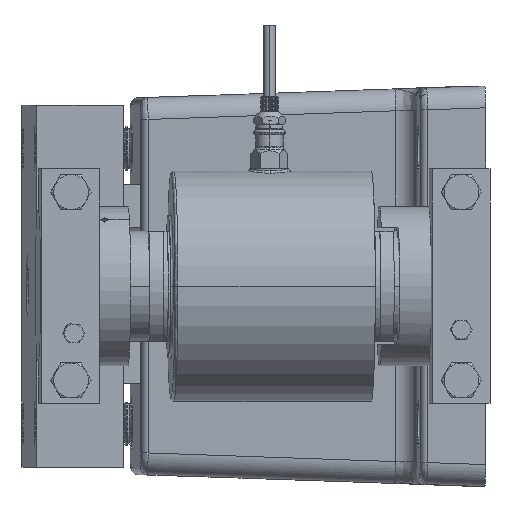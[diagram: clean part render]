
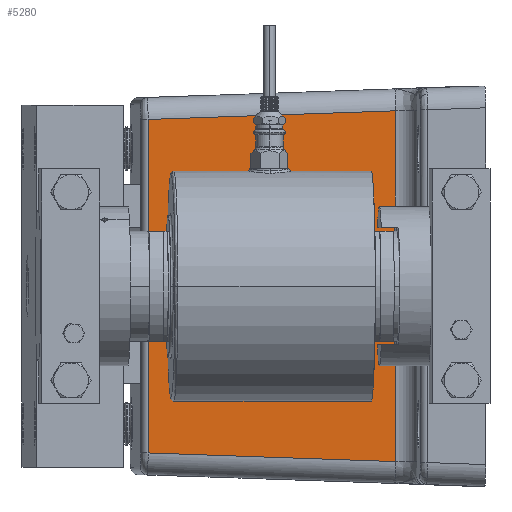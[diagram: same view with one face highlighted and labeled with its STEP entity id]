
A CAD part, left-side view. The second image highlights one B-rep face of the part: STEP entity #5280.
In plain terms, the highlighted planar face has unit normal (-1, 0, 0) as drawn and (-0.999, 0.035, 0) by its records, which use the part's own axes.
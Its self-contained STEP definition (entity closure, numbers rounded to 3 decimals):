
#1354 = LINE ( 'NONE', #33025, #33276 ) ;
#1783 = DIRECTION ( 'NONE',  ( 0., 0., 1. ) ) ;
#3102 = CARTESIAN_POINT ( 'NONE',  ( 73.871, 59.477, -251.139 ) ) ;
#5280 = ADVANCED_FACE ( 'NONE', ( #18246 ), #31079, .T. ) ;
#8246 = CARTESIAN_POINT ( 'NONE',  ( 79.831, 230.174, -14.822 ) ) ;
#9266 = CARTESIAN_POINT ( 'NONE',  ( 80.298, 243.535, -15.289 ) ) ;
#9676 = VERTEX_POINT ( 'NONE', #3102 ) ;
#12179 = DIRECTION ( 'NONE',  ( -0.999, 0.035, 0. ) ) ;
#12671 = EDGE_CURVE ( 'NONE', #18720, #13911, #40480, .T. ) ;
#12758 = ORIENTED_EDGE ( 'NONE', *, *, #39160, .T. ) ;
#13876 = CARTESIAN_POINT ( 'NONE',  ( 79.884, 231.691, -245.125 ) ) ;
#13911 = VERTEX_POINT ( 'NONE', #35965 ) ;
#15201 = VECTOR ( 'NONE', #23291, 1000. ) ;
#17140 = ORIENTED_EDGE ( 'NONE', *, *, #26113, .F. ) ;
#17597 = AXIS2_PLACEMENT_3D ( 'NONE', #40872, #12179, #24957 ) ;
#18246 = FACE_OUTER_BOUND ( 'NONE', #24901, .T. ) ;
#18250 = DIRECTION ( 'NONE',  ( 0., 0., -1. ) ) ;
#18720 = VERTEX_POINT ( 'NONE', #8246 ) ;
#21001 = CARTESIAN_POINT ( 'NONE',  ( 79.831, 230.174, -260. ) ) ;
#23291 = DIRECTION ( 'NONE',  ( 0.035, 0.999, 0.035 ) ) ;
#23614 = VECTOR ( 'NONE', #37363, 1000. ) ;
#24199 = VERTEX_POINT ( 'NONE', #35656 ) ;
#24901 = EDGE_LOOP ( 'NONE', ( #17140, #12758, #28791, #34379 ) ) ;
#24957 = DIRECTION ( 'NONE',  ( -0.035, -0.999, 0. ) ) ;
#26113 = EDGE_CURVE ( 'NONE', #9676, #13911, #29815, .T. ) ;
#28791 = ORIENTED_EDGE ( 'NONE', *, *, #35104, .F. ) ;
#29815 = LINE ( 'NONE', #13876, #15201 ) ;
#31079 = PLANE ( 'NONE',  #17597 ) ;
#33025 = CARTESIAN_POINT ( 'NONE',  ( 73.871, 59.477, -260. ) ) ;
#33276 = VECTOR ( 'NONE', #1783, 1000. ) ;
#34379 = ORIENTED_EDGE ( 'NONE', *, *, #12671, .T. ) ;
#35104 = EDGE_CURVE ( 'NONE', #18720, #24199, #37972, .T. ) ;
#35656 = CARTESIAN_POINT ( 'NONE',  ( 73.871, 59.477, -8.861 ) ) ;
#35965 = CARTESIAN_POINT ( 'NONE',  ( 79.831, 230.174, -245.178 ) ) ;
#37363 = DIRECTION ( 'NONE',  ( -0.035, -0.999, 0.035 ) ) ;
#37398 = VECTOR ( 'NONE', #18250, 1000. ) ;
#37972 = LINE ( 'NONE', #9266, #23614 ) ;
#39160 = EDGE_CURVE ( 'NONE', #9676, #24199, #1354, .T. ) ;
#40480 = LINE ( 'NONE', #21001, #37398 ) ;
#40872 = CARTESIAN_POINT ( 'NONE',  ( 80., 235., -260. ) ) ;
